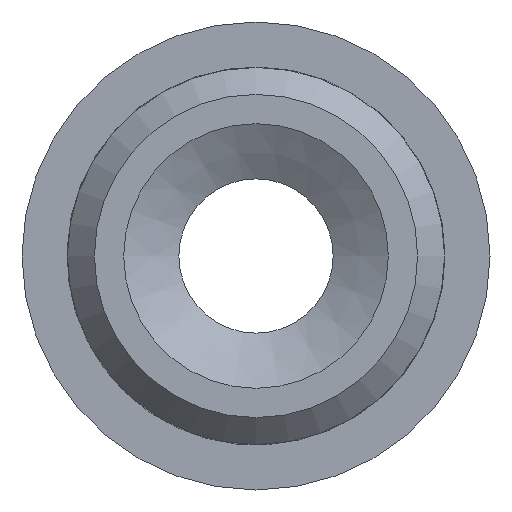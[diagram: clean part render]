
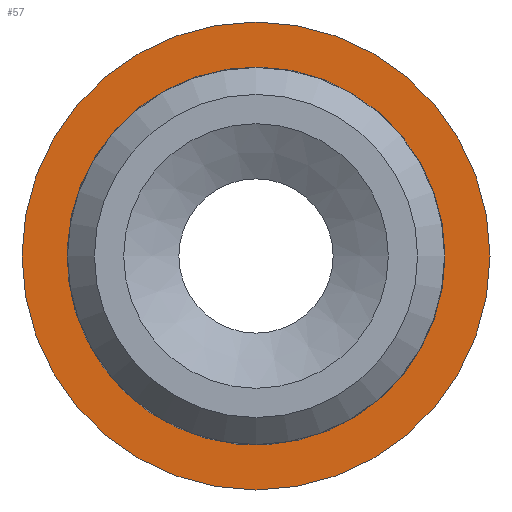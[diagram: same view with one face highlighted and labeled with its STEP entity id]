
A CAD part, front view. The second image highlights one B-rep face of the part: STEP entity #57.
In plain terms, the highlighted planar face has unit normal (0, -1, 0).
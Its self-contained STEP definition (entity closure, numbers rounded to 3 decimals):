
#57=ADVANCED_FACE('',(#178,#180),#182,.F.);
#178=FACE_BOUND('',#179,.T.);
#179=EDGE_LOOP('',(#785));
#180=FACE_BOUND('',#181,.T.);
#181=EDGE_LOOP('',(#786));
#182=PLANE('',#183);
#183=AXIS2_PLACEMENT_3D('',#184,#185,#186);
#184=CARTESIAN_POINT('',(0.,0.,0.));
#185=DIRECTION('',(0.,1.,0.));
#186=DIRECTION('',(-1.,0.,0.));
#785=ORIENTED_EDGE('',*,*,#1318,.T.);
#786=ORIENTED_EDGE('',*,*,#1314,.F.);
#1314=EDGE_CURVE('',#1535,#1535,#1536,.F.);
#1318=EDGE_CURVE('',#1543,#1543,#1544,.T.);
#1535=VERTEX_POINT('',#1912);
#1536=CIRCLE('',#1913,10.);
#1543=VERTEX_POINT('',#1932);
#1544=CIRCLE('',#1933,13.);
#1912=CARTESIAN_POINT('',(10.,0.,0.));
#1913=AXIS2_PLACEMENT_3D('',#1914,#1915,#1916);
#1914=CARTESIAN_POINT('',(0.,0.,0.));
#1915=DIRECTION('',(0.,1.,0.));
#1916=DIRECTION('',(1.,0.,0.));
#1932=CARTESIAN_POINT('',(0.,0.,-13.));
#1933=AXIS2_PLACEMENT_3D('',#1934,#1935,#1936);
#1934=CARTESIAN_POINT('',(0.,0.,0.));
#1935=DIRECTION('',(0.,-1.,0.));
#1936=DIRECTION('',(0.,0.,-1.));
